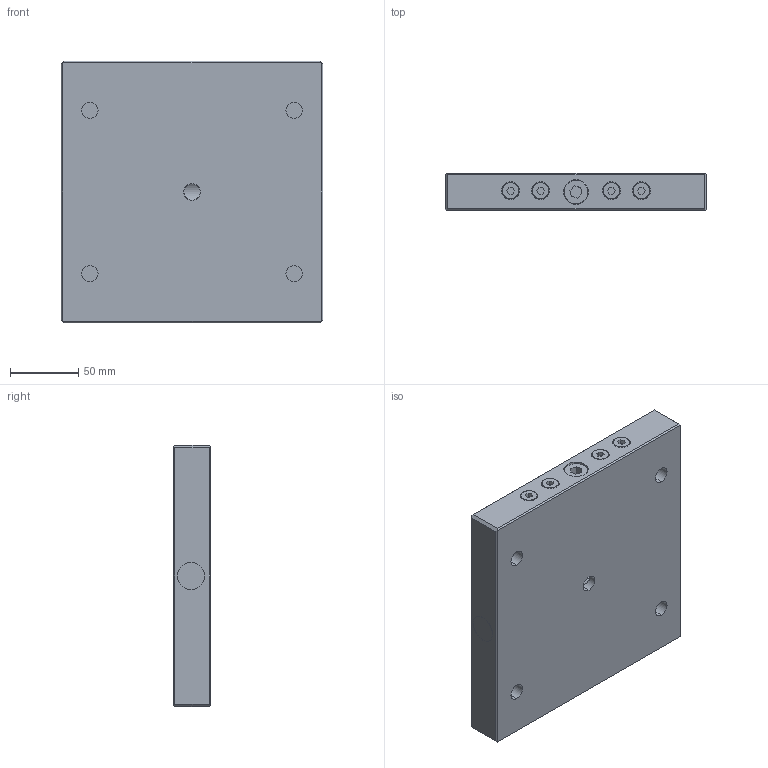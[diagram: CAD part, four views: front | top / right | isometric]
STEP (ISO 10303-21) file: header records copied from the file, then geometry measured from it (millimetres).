
FILE_DESCRIPTION (( 'STEP AP214' ), '1' );
FILE_NAME ('75748.STEP', '2022-06-03T13:20:48', ( '' ), ( '' ), 'SwSTEP 2.0', 'SolidWorks 2021', '' );
FILE_SCHEMA (( 'AUTOMOTIVE_DESIGN' ));
Length unit declared in the file: millimetre
Products named in the file (1): 75748
Bounding box: 192 x 27 x 192 mm (x, y, z)
Volume: 807417.7 mm3; surface area: 151291.9 mm2
Topology: 16 solids, 16 shells, 340 faces, 806 edges, 498 vertices
Faces by surface type: plane 132, cylinder 128, cone 64, torus 16
Entity records: 15768 total; most frequent: CARTESIAN_POINT 3906, DIRECTION 1681, ORIENTED_EDGE 1596, EDGE_CURVE 798, AXIS2_PLACEMENT_3D 631, VERTEX_POINT 498, VECTOR 419, LINE 419
